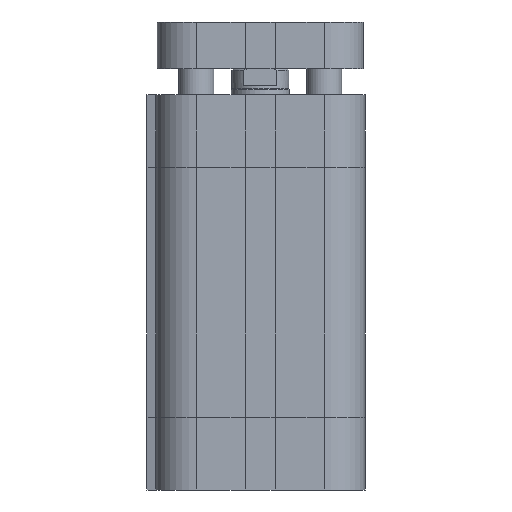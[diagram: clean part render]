
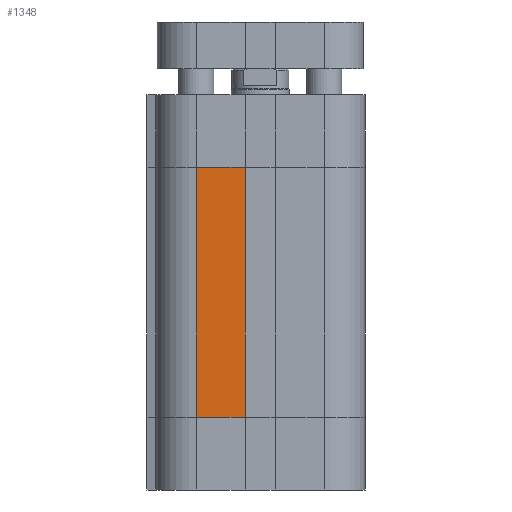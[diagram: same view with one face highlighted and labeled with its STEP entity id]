
A CAD part, left-side view. The second image highlights one B-rep face of the part: STEP entity #1348.
In plain terms, the highlighted planar face has unit normal (-1, 0, 0).
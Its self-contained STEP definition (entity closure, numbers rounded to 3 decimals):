
#1259=CARTESIAN_POINT('',(-18.,11.0,12.5));
#1260=VERTEX_POINT('',#1259);
#1268=CARTESIAN_POINT('',(-18.,11.0,55.5));
#1269=VERTEX_POINT('',#1268);
#1270=CARTESIAN_POINT('',(-18.,11.0,12.5));
#1271=DIRECTION('',(0.0,0.0,1.0));
#1272=VECTOR('',#1271,43.);
#1273=LINE('',#1270,#1272);
#1274=EDGE_CURVE('',#1260,#1269,#1273,.T.);
#1318=CARTESIAN_POINT('',(-18.0,2.6,0.0));
#1319=DIRECTION('',(-1.0,0.0,0.0));
#1320=DIRECTION('',(0.0,0.0,1.0));
#1321=AXIS2_PLACEMENT_3D('',#1318,#1319,#1320);
#1322=PLANE('',#1321);
#1323=CARTESIAN_POINT('',(-18.0,2.6,12.5));
#1324=VERTEX_POINT('',#1323);
#1325=CARTESIAN_POINT('',(-18.,11.0,12.5));
#1326=DIRECTION('',(0.0,-1.0,0.0));
#1327=VECTOR('',#1326,8.4);
#1328=LINE('',#1325,#1327);
#1329=EDGE_CURVE('',#1260,#1324,#1328,.T.);
#1330=ORIENTED_EDGE('',*,*,#1329,.T.);
#1331=CARTESIAN_POINT('',(-18.0,2.6,55.5));
#1332=VERTEX_POINT('',#1331);
#1333=CARTESIAN_POINT('',(-18.0,2.6,12.5));
#1334=DIRECTION('',(0.0,0.0,1.0));
#1335=VECTOR('',#1334,43.);
#1336=LINE('',#1333,#1335);
#1337=EDGE_CURVE('',#1324,#1332,#1336,.T.);
#1338=ORIENTED_EDGE('',*,*,#1337,.T.);
#1339=CARTESIAN_POINT('',(-18.,11.0,55.5));
#1340=DIRECTION('',(0.0,-1.0,0.0));
#1341=VECTOR('',#1340,8.4);
#1342=LINE('',#1339,#1341);
#1343=EDGE_CURVE('',#1269,#1332,#1342,.T.);
#1344=ORIENTED_EDGE('',*,*,#1343,.F.);
#1345=ORIENTED_EDGE('',*,*,#1274,.F.);
#1346=EDGE_LOOP('',(#1330,#1338,#1344,#1345));
#1347=FACE_OUTER_BOUND('',#1346,.T.);
#1348=ADVANCED_FACE('',(#1347),#1322,.T.);
